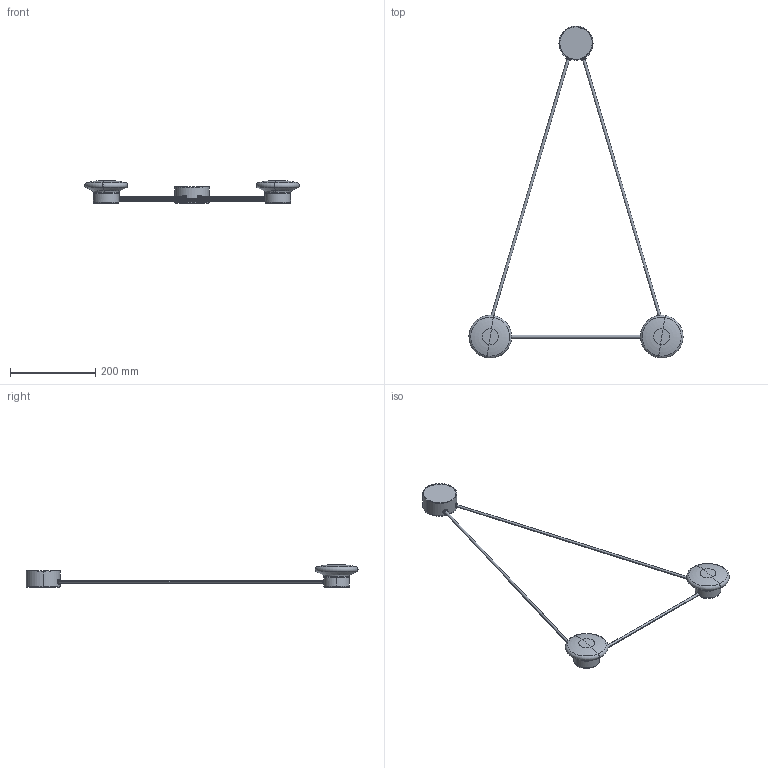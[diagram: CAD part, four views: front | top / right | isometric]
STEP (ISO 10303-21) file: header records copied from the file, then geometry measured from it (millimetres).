
FILE_DESCRIPTION (( 'STEP AP203' ), '1' );
FILE_NAME ('FBN08.LA01.AF01.R00 - Render.STEP', '2026-05-07T14:46:57', ( '' ), ( '' ), 'SwSTEP 2.0', 'SolidWorks 2025', '' );
FILE_SCHEMA (( 'CONFIG_CONTROL_DESIGN' ));
Length unit declared in the file: millimetre
Products named in the file (18): FBN08.LA01.AM04.R00; FBN08.LA01.AM05.R00; FBN08.LA01.AM03.R00; Nipplo A_NIPPLO M10x1 H.7 NERO; FBN08.LA01.AM02.R00; FBN08.LA01.C003.R00; FBN08.LA01.C004.R00_Default<A macchina>; FBN08.LA01.C005.R00; FBN08.LA01.C002.R00; FBN08.LA01.C090.R00; FBN08.LS01.C004.R00; FBN08.LA01.AF01.R00 - Render; FBN08.LA01.C006.R00; FBN08.LA01.AM01.R00; FBN08.LA01.C007.R00; FBN08.LA01.C001.R00; FBN08.LS01.AM01.R00; Modulo Led Star CV EA CL196-DB
Assembly tree (22 placements, depth 4):
  FBN08.LA01.AF01.R00 - Render
    FBN08.LA01.AM03.R00
      Nipplo A_NIPPLO M10x1 H.7 NERO  x2
      FBN08.LA01.C004.R00_Default<A macchina>
      FBN08.LA01.C006.R00
    FBN08.LA01.AM01.R00
      FBN08.LA01.C001.R00
      FBN08.LS01.AM01.R00
        FBN08.LS01.C004.R00
      FBN08.LA01.C002.R00
      Modulo Led Star CV EA CL196-DB
    FBN08.LA01.AM02.R00
      FBN08.LA01.C003.R00
      FBN08.LS01.AM01.R00
        FBN08.LS01.C004.R00
      FBN08.LA01.C002.R00
      Modulo Led Star CV EA CL196-DB
    FBN08.LA01.C090.R00  x2
    FBN08.LA01.AM05.R00
      FBN08.LA01.AM04.R00
        FBN08.LA01.C005.R00
        FBN08.LA01.C007.R00
Bounding box: 501.39 x 777.09 x 53.12 mm (x, y, z)
Volume: 246915.7 mm3; surface area: 190083.7 mm2
Topology: 18 solids, 18 shells, 630 faces, 1545 edges, 992 vertices
Faces by surface type: plane 265, cylinder 264, torus 47, cone 40, sphere 8, bspline 6
Entity records: 17766 total; most frequent: CARTESIAN_POINT 5153, DIRECTION 2348, ORIENTED_EDGE 2118, EDGE_CURVE 1059, AXIS2_PLACEMENT_3D 905, VERTEX_POINT 684, VECTOR 538, LINE 538
